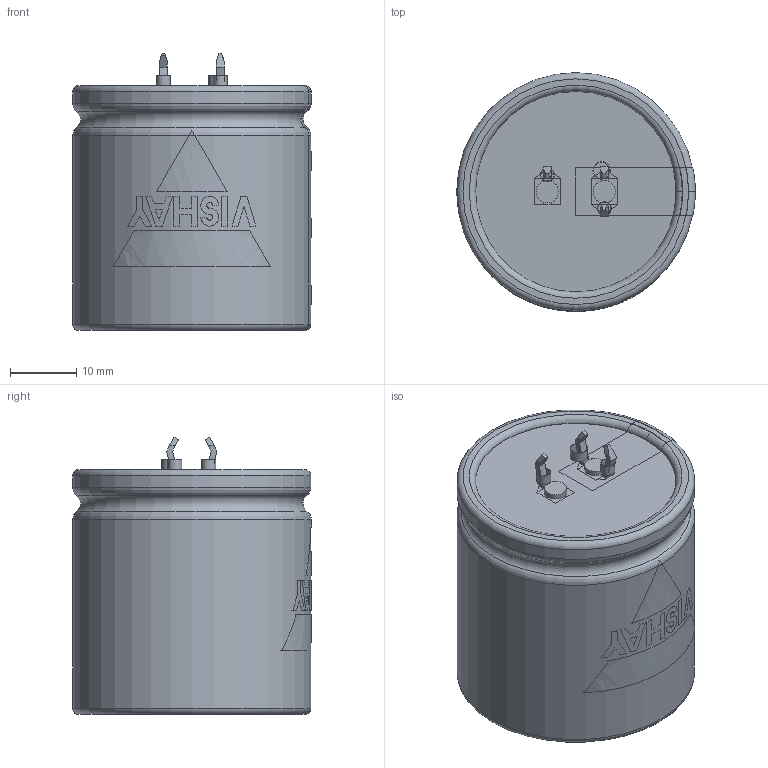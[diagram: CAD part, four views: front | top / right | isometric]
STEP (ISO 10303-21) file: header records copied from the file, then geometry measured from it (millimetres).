
FILE_DESCRIPTION(('FreeCAD Model'),'2;1');
FILE_NAME( 'C:/Users/Gebruiker/Documents/FreeCAD/SnapIn_35x35_3pin_4.0.step', '2020-11-12T21:19:00',('Author'),(''), 'Open CASCADE STEP processor 6.8','FreeCAD','Unknown');
FILE_SCHEMA(('AUTOMOTIVE_DESIGN_CC2 { 1 2 10303 214 -1 1 5 4 }'));
Length unit declared in the file: millimetre
Products named in the file (9): ASSEMBLY; TerminalMinKP; PCBHolesKP; TerminalPlus; Disc; BottomInsulation; Can3D; InkMinusBar; InkLogo
Assembly tree (8 placements, depth 2):
  ASSEMBLY
    TerminalMinKP
    PCBHolesKP
    TerminalPlus
    Disc
    BottomInsulation
    Can3D
    InkMinusBar
    InkLogo
Bounding box: 36.05 x 36.05 x 41.95 mm (x, y, z)
Volume: 43476.3 mm3; surface area: 16125.5 mm2
Topology: 17 solids, 17 shells, 206 faces, 497 edges, 324 vertices
Faces by surface type: plane 156, cylinder 31, torus 19
Full cylindrical faces by diameter (mm): 2 x2, 2.1 x2, 2.5 x1, 2.6 x1, 3.4 x2, 28.8 x2, 30.3 x1, 36 x2
Entity records: 21574 total; most frequent: CARTESIAN_POINT 10458, DIRECTION 1712, ORIENTED_EDGE 994, PCURVE 994, DEFINITIONAL_REPRESENTATION 994, LINE 949, VECTOR 949, EDGE_CURVE 497
